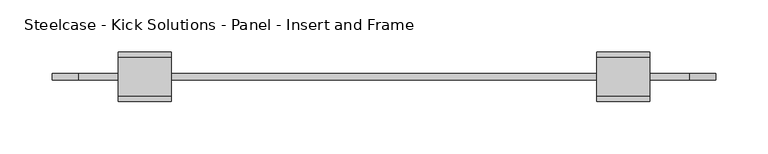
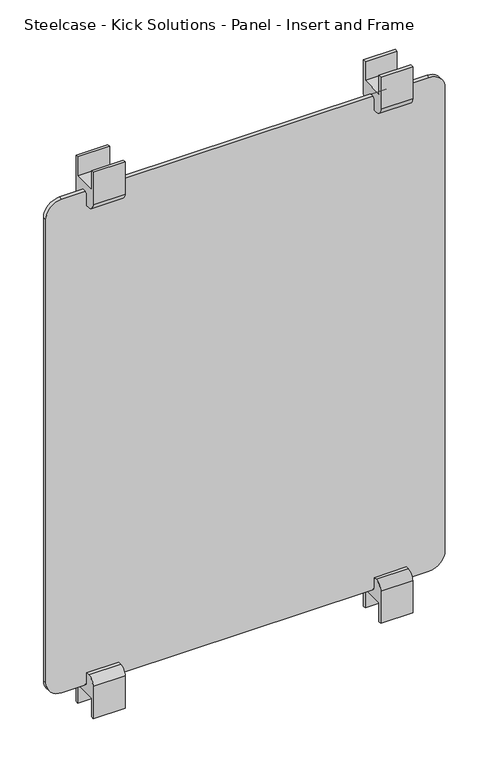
"""IFC4 building model written with IfcOpenShell, lengths in millimetres: furniture geometry, Steelcase - Kick Solutions - Panel - Insert and Frame : Laminate - 42H x 30W."""

from ifc_helpers import new_model, si_unit, point, frame, frame_2d, origin, place, context, project, spatial, polyline, circle_curve, trimmed, segment, composite_curve, outline, extrude, source, transform, mapped, element, save


def steelcase_kick_solutions_panel_insert_and_frame_368bcaf8(model_context):
    return source(origin(), model_context, "Body", "SweptSolid", [
        extrude(outline(composite_curve([segment(polyline([(5.3821989, 1041.4), (10.144699, 1041.4), (10.144699, 986.713221)]), True, "CONTINUOUS"), segment(trimmed(circle_curve(frame_2d((-1.6831687, 986.713221)), 11.8278677), [point((10.144699, 986.713221))], [point((-1.6831687, 974.8853533))], False, "CARTESIAN"), True, "CONTINUOUS"), segment(polyline([(-1.6831687, 974.8853533), (-7.3178012, 974.8853533), (-7.3178012, 990.2857521)]), True, "CONTINUOUS"), segment(trimmed(circle_curve(frame_2d((-13.667801, 990.2857521)), 6.3499998), [point((-7.3178012, 990.2857521))], [point((-20.0178007, 990.2857521))], True, "CARTESIAN"), True, "CONTINUOUS"), segment(polyline([(-20.0178007, 990.2857521), (-20.0178007, 974.8853527), (-25.2074988, 974.8853527)]), True, "CONTINUOUS"), segment(trimmed(circle_curve(frame_2d((-25.2074988, 987.1581549)), 12.2728022), [point((-25.2074988, 974.8853527))], [point((-37.480301, 987.1581549))], False, "CARTESIAN"), True, "CONTINUOUS"), segment(polyline([(-37.480301, 987.1581549), (-37.480301, 1041.4), (-32.7177988, 1041.4), (-32.7177988, 1009.6499758), (5.3821989, 1009.6499758), (5.3821989, 1041.4)]), True, "CONTINUOUS")], self_intersect=False)), frame((585.1148583, 0.0, 0.0), z_axis=(1.0, 0.0, 0.0), x_axis=(0.0, 1.0, 0.0)), (0.0, 0.0, 1.0), 50.8),
        extrude(outline(composite_curve([segment(polyline([(5.3821989, 120.6499576), (5.3821989, 152.3999815), (-32.7177988, 152.3999815), (-32.7177988, 120.6499576), (-37.480301, 120.6499576), (-37.480301, 174.8918024)]), True, "CONTINUOUS"), segment(trimmed(circle_curve(frame_2d((-25.2074988, 174.8918024)), 12.2728022), [point((-37.480301, 174.8918024))], [point((-25.2074988, 187.1646046))], False, "CARTESIAN"), True, "CONTINUOUS"), segment(polyline([(-25.2074988, 187.1646046), (-20.0178007, 187.1646046), (-20.0178007, 171.7642058)]), True, "CONTINUOUS"), segment(trimmed(circle_curve(frame_2d((-13.667801, 171.7642058)), 6.3499998), [point((-20.0178007, 171.7642058))], [point((-7.3178012, 171.7642058))], True, "CARTESIAN"), True, "CONTINUOUS"), segment(polyline([(-7.3178012, 171.7642058), (-7.3178012, 187.1646046), (-1.6831687, 187.1646046)]), True, "CONTINUOUS"), segment(trimmed(circle_curve(frame_2d((-1.6831687, 175.3367369)), 11.8278677), [point((-1.6831687, 187.1646046))], [point((10.144699, 175.3367369))], False, "CARTESIAN"), True, "CONTINUOUS"), segment(polyline([(10.144699, 175.3367369), (10.144699, 120.6499576), (5.3821989, 120.6499576)]), True, "CONTINUOUS")], self_intersect=False)), frame((585.1148583, 0.0, 0.0), z_axis=(1.0, 0.0, 0.0), x_axis=(0.0, 1.0, 0.0)), (0.0, 0.0, 1.0), 50.8),
        extrude(outline(composite_curve([segment(polyline([(5.3821989, 1041.4), (10.144699, 1041.4), (10.144699, 986.7132204)]), True, "CONTINUOUS"), segment(trimmed(circle_curve(frame_2d((-1.6831684, 986.7132204)), 11.8278674), [point((10.144699, 986.7132204))], [point((-1.6831684, 974.885353))], False, "CARTESIAN"), True, "CONTINUOUS"), segment(polyline([(-1.6831684, 974.885353), (-7.3178009, 974.885353), (-7.3178009, 990.2857521)]), True, "CONTINUOUS"), segment(trimmed(circle_curve(frame_2d((-13.667801, 990.2857521)), 6.3500001), [point((-7.3178009, 990.2857521))], [point((-20.017801, 990.2857521))], True, "CARTESIAN"), True, "CONTINUOUS"), segment(polyline([(-20.017801, 990.2857521), (-20.017801, 974.885353), (-25.2074991, 974.885353)]), True, "CONTINUOUS"), segment(trimmed(circle_curve(frame_2d((-25.2074991, 987.1581549)), 12.2728019), [point((-25.2074991, 974.885353))], [point((-37.480301, 987.1581549))], False, "CARTESIAN"), True, "CONTINUOUS"), segment(polyline([(-37.480301, 987.1581549), (-37.480301, 1041.4), (-32.7177988, 1041.4), (-32.7177988, 1009.6499758), (5.3821989, 1009.6499758), (5.3821989, 1041.4)]), True, "CONTINUOUS")], self_intersect=False)), frame((126.0851417, 0.0, 0.0), z_axis=(1.0, 0.0, 0.0), x_axis=(0.0, 1.0, 0.0)), (0.0, 0.0, 1.0), 50.8),
        extrude(outline(composite_curve([segment(polyline([(5.3821989, 120.6499576), (5.3821989, 152.3999818), (-32.7177988, 152.3999818), (-32.7177988, 120.6499576), (-37.480301, 120.6499576), (-37.480301, 174.8918027)]), True, "CONTINUOUS"), segment(trimmed(circle_curve(frame_2d((-25.2074991, 174.8918027)), 12.2728019), [point((-37.480301, 174.8918027))], [point((-25.2074991, 187.1646046))], False, "CARTESIAN"), True, "CONTINUOUS"), segment(polyline([(-25.2074991, 187.1646046), (-20.017801, 187.1646046), (-20.017801, 171.7642055)]), True, "CONTINUOUS"), segment(trimmed(circle_curve(frame_2d((-13.667801, 171.7642055)), 6.3500001), [point((-20.017801, 171.7642055))], [point((-7.3178009, 171.7642055))], True, "CARTESIAN"), True, "CONTINUOUS"), segment(polyline([(-7.3178009, 171.7642055), (-7.3178009, 187.1646041), (-1.6831684, 187.1646041)]), True, "CONTINUOUS"), segment(trimmed(circle_curve(frame_2d((-1.6831684, 175.3367366)), 11.8278674), [point((-1.6831684, 187.1646041))], [point((10.144699, 175.3367366))], False, "CARTESIAN"), True, "CONTINUOUS"), segment(polyline([(10.144699, 175.3367366), (10.144699, 120.6499576), (5.3821989, 120.6499576)]), True, "CONTINUOUS")], self_intersect=False)), frame((126.0851417, 0.0, 0.0), z_axis=(1.0, 0.0, 0.0), x_axis=(0.0, 1.0, 0.0)), (0.0, 0.0, 1.0), 50.8),
        extrude(outline(composite_curve([segment(polyline([(996.9499516, 674.0148583), (996.9499516, 87.9851417)]), True, "CONTINUOUS"), segment(trimmed(circle_curve(frame_2d((971.5499516, 87.9851417)), 25.4), [point((996.9499516, 87.9851417))], [point((971.5499516, 62.5851417))], False, "CARTESIAN"), True, "CONTINUOUS"), segment(polyline([(971.5499516, 62.5851417), (190.5000061, 62.5851417)]), True, "CONTINUOUS"), segment(trimmed(circle_curve(frame_2d((190.5000061, 87.9851417)), 25.4), [point((190.5000061, 62.5851417))], [point((165.1000061, 87.9851417))], False, "CARTESIAN"), True, "CONTINUOUS"), segment(polyline([(165.1000061, 87.9851417), (165.1000061, 674.0148583)]), True, "CONTINUOUS"), segment(trimmed(circle_curve(frame_2d((190.5000061, 674.0148583)), 25.4), [point((165.1000061, 674.0148583))], [point((190.5000061, 699.4148583))], False, "CARTESIAN"), True, "CONTINUOUS"), segment(polyline([(190.5000061, 699.4148583), (971.5499516, 699.4148583)]), True, "CONTINUOUS"), segment(trimmed(circle_curve(frame_2d((971.5499516, 674.0148583)), 25.4), [point((971.5499516, 699.4148583))], [point((996.9499516, 674.0148583))], False, "CARTESIAN"), True, "CONTINUOUS")], self_intersect=False)), frame((0.0, -16.8428004, 0.0), z_axis=(0.0, 1.0, 0.0), x_axis=(0.0, 0.0, 1.0)), (0.0, 0.0, 1.0), 6.3499985),
    ])


if __name__ == "__main__":
    model = new_model("IFC4")
    model_context = context("Model", 3, world=origin())
    ifc_project = project(units=[si_unit("LENGTHUNIT", "METRE", prefix="MILLI")], contexts=[model_context])
    site = spatial("IfcSite", under=ifc_project)
    building = spatial("IfcBuilding", under=site)
    placement = place(None, origin())
    steelcase_kick_solutions_panel_insert_and_frame_shape = steelcase_kick_solutions_panel_insert_and_frame_368bcaf8(model_context)
    element("IfcFurniture", 1, ObjectType="Steelcase - Kick Solutions - Panel - Insert and Frame : Laminate - 42H x 30W", at=placement, inside=building, context=model_context, shape_type="MappedRepresentation", body=[
        mapped(steelcase_kick_solutions_panel_insert_and_frame_shape, transform((0.0, 0.0, 0.0), x_axis=(1.0, 0.0, 0.0), y_axis=(0.0, 1.0, 0.0), z_axis=(0.0, 0.0, 1.0))),
    ])
    save(model, "model.ifc")
